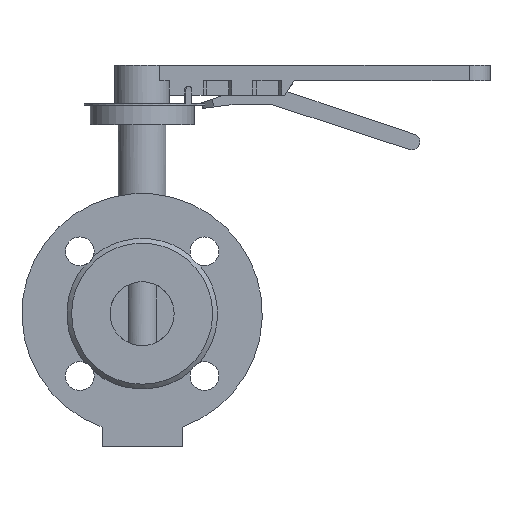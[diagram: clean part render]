
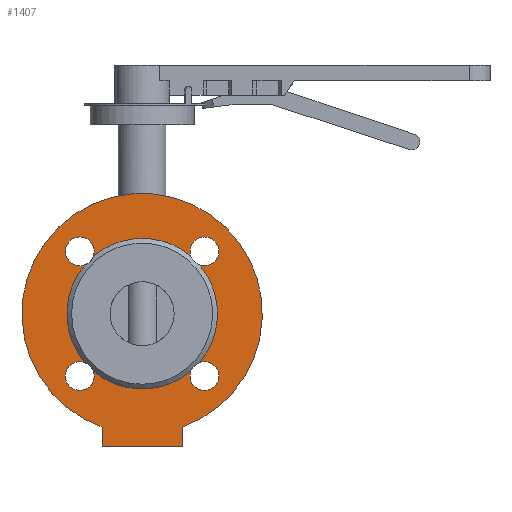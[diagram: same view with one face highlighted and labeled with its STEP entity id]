
A CAD part, front view. The second image highlights one B-rep face of the part: STEP entity #1407.
In plain terms, the highlighted planar face has unit normal (0, -1, 0).
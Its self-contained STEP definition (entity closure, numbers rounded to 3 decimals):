
#1407=ADVANCED_FACE('',(#2716,#2718),#2720,.T.);
#2716=FACE_BOUND('',#2717,.T.);
#2717=EDGE_LOOP('',(#3685,#3686,#3687,#3688));
#2718=FACE_BOUND('',#2719,.T.);
#2719=EDGE_LOOP('',(#3689,#3690,#3691,#3692,#3693,#3694,#3695,#3696,#3697,#3698,
#3699,#3700,#3701));
#2720=PLANE('',#2721);
#2721=AXIS2_PLACEMENT_3D('',#2722,#2723,#2724);
#2722=CARTESIAN_POINT('',(0.,-51.,0.));
#2723=DIRECTION('',(0.,-1.,0.));
#2724=DIRECTION('',(0.,0.,1.));
#3685=ORIENTED_EDGE('',*,*,#4161,.T.);
#3686=ORIENTED_EDGE('',*,*,#4159,.F.);
#3687=ORIENTED_EDGE('',*,*,#4157,.F.);
#3688=ORIENTED_EDGE('',*,*,#4156,.F.);
#3689=ORIENTED_EDGE('',*,*,#4166,.T.);
#3690=ORIENTED_EDGE('',*,*,#4168,.T.);
#3691=ORIENTED_EDGE('',*,*,#4223,.T.);
#3692=ORIENTED_EDGE('',*,*,#4171,.T.);
#3693=ORIENTED_EDGE('',*,*,#4170,.T.);
#3694=ORIENTED_EDGE('',*,*,#4224,.T.);
#3695=ORIENTED_EDGE('',*,*,#4174,.T.);
#3696=ORIENTED_EDGE('',*,*,#4173,.T.);
#3697=ORIENTED_EDGE('',*,*,#4225,.T.);
#3698=ORIENTED_EDGE('',*,*,#4175,.T.);
#3699=ORIENTED_EDGE('',*,*,#4177,.T.);
#3700=ORIENTED_EDGE('',*,*,#4226,.T.);
#3701=ORIENTED_EDGE('',*,*,#4227,.T.);
#4156=EDGE_CURVE('',#4879,#4877,#4881,.T.);
#4157=EDGE_CURVE('',#4877,#4882,#4883,.T.);
#4159=EDGE_CURVE('',#4882,#4885,#4886,.T.);
#4161=EDGE_CURVE('',#4879,#4885,#4888,.T.);
#4166=EDGE_CURVE('',#4893,#4894,#4895,.F.);
#4168=EDGE_CURVE('',#4894,#4896,#4898,.F.);
#4170=EDGE_CURVE('',#4902,#4899,#4903,.F.);
#4171=EDGE_CURVE('',#4900,#4902,#4904,.F.);
#4173=EDGE_CURVE('',#4908,#4905,#4909,.F.);
#4174=EDGE_CURVE('',#4906,#4908,#4910,.F.);
#4175=EDGE_CURVE('',#4911,#4912,#4913,.F.);
#4177=EDGE_CURVE('',#4912,#4914,#4916,.F.);
#4223=EDGE_CURVE('',#4896,#4900,#4989,.T.);
#4224=EDGE_CURVE('',#4899,#4906,#4990,.T.);
#4225=EDGE_CURVE('',#4905,#4911,#4991,.T.);
#4226=EDGE_CURVE('',#4914,#4992,#4993,.T.);
#4227=EDGE_CURVE('',#4992,#4893,#4994,.T.);
#4877=VERTEX_POINT('',#6911);
#4879=VERTEX_POINT('',#6915);
#4881=CIRCLE('',#6919,75.);
#4882=VERTEX_POINT('',#6923);
#4883=LINE('',#6924,#6925);
#4885=VERTEX_POINT('',#6930);
#4886=LINE('',#6931,#6932);
#4888=LINE('',#6937,#6938);
#4893=VERTEX_POINT('',#6952);
#4894=VERTEX_POINT('',#6953);
#4895=CIRCLE('',#6954,9.);
#4896=VERTEX_POINT('',#6958);
#4898=CIRCLE('',#7026,9.);
#4899=VERTEX_POINT('',#7030);
#4900=VERTEX_POINT('',#7031);
#4902=VERTEX_POINT('',#7099);
#4903=CIRCLE('',#7100,9.);
#4904=CIRCLE('',#7104,9.);
#4905=VERTEX_POINT('',#7108);
#4906=VERTEX_POINT('',#7109);
#4908=VERTEX_POINT('',#7177);
#4909=CIRCLE('',#7178,9.);
#4910=CIRCLE('',#7182,9.);
#4911=VERTEX_POINT('',#7186);
#4912=VERTEX_POINT('',#7187);
#4913=CIRCLE('',#7188,9.);
#4914=VERTEX_POINT('',#7192);
#4916=CIRCLE('',#7260,9.);
#4989=CIRCLE('',#7901,47.);
#4990=CIRCLE('',#7905,47.);
#4991=CIRCLE('',#7909,47.);
#4992=VERTEX_POINT('',#7913);
#4993=CIRCLE('',#7914,47.);
#4994=CIRCLE('',#7918,47.);
#6911=CARTESIAN_POINT('',(25.,-51.,-70.711));
#6915=CARTESIAN_POINT('',(-25.,-51.,-70.711));
#6919=AXIS2_PLACEMENT_3D('',#6920,#6921,#6922);
#6920=CARTESIAN_POINT('',(0.,-51.,0.));
#6921=DIRECTION('',(0.,1.,0.));
#6922=DIRECTION('',(-0.333,0.,-0.943));
#6923=CARTESIAN_POINT('',(25.,-51.,-83.));
#6924=CARTESIAN_POINT('',(25.,-51.,-70.711));
#6925=VECTOR('',#6926,1.);
#6926=DIRECTION('',(0.,0.,-1.));
#6930=CARTESIAN_POINT('',(-25.,-51.,-83.));
#6931=CARTESIAN_POINT('',(25.,-51.,-83.));
#6932=VECTOR('',#6933,1.);
#6933=DIRECTION('',(-1.,0.,0.));
#6937=CARTESIAN_POINT('',(-25.,-51.,-70.711));
#6938=VECTOR('',#6939,1.);
#6939=DIRECTION('',(0.,0.,-1.));
#6952=CARTESIAN_POINT('',(30.432,-51.,35.818));
#6953=CARTESIAN_POINT('',(38.891,-51.,29.891));
#6954=AXIS2_PLACEMENT_3D('',#6955,#6956,#6957);
#6955=CARTESIAN_POINT('',(38.891,-51.,38.891));
#6956=DIRECTION('',(0.,-1.,0.));
#6957=DIRECTION('',(0.,0.,-1.));
#6958=CARTESIAN_POINT('',(35.818,-51.,30.432));
#7026=AXIS2_PLACEMENT_3D('',#7027,#7028,#7029);
#7027=CARTESIAN_POINT('',(38.891,-51.,38.891));
#7028=DIRECTION('',(0.,-1.,0.));
#7029=DIRECTION('',(-0.341,0.,-0.94));
#7030=CARTESIAN_POINT('',(30.432,-51.,-35.818));
#7031=CARTESIAN_POINT('',(35.818,-51.,-30.432));
#7099=CARTESIAN_POINT('',(29.891,-51.,-38.891));
#7100=AXIS2_PLACEMENT_3D('',#7101,#7102,#7103);
#7101=CARTESIAN_POINT('',(38.891,-51.,-38.891));
#7102=DIRECTION('',(0.,-1.,0.));
#7103=DIRECTION('',(-0.94,0.,0.341));
#7104=AXIS2_PLACEMENT_3D('',#7105,#7106,#7107);
#7105=CARTESIAN_POINT('',(38.891,-51.,-38.891));
#7106=DIRECTION('',(0.,-1.,0.));
#7107=DIRECTION('',(-1.,0.,0.));
#7108=CARTESIAN_POINT('',(-35.818,-51.,-30.432));
#7109=CARTESIAN_POINT('',(-30.432,-51.,-35.818));
#7177=CARTESIAN_POINT('',(-38.891,-51.,-29.891));
#7178=AXIS2_PLACEMENT_3D('',#7179,#7180,#7181);
#7179=CARTESIAN_POINT('',(-38.891,-51.,-38.891));
#7180=DIRECTION('',(0.,-1.,0.));
#7181=DIRECTION('',(0.341,0.,0.94));
#7182=AXIS2_PLACEMENT_3D('',#7183,#7184,#7185);
#7183=CARTESIAN_POINT('',(-38.891,-51.,-38.891));
#7184=DIRECTION('',(0.,-1.,0.));
#7185=DIRECTION('',(0.,0.,1.));
#7186=CARTESIAN_POINT('',(-35.818,-51.,30.432));
#7187=CARTESIAN_POINT('',(-29.891,-51.,38.891));
#7188=AXIS2_PLACEMENT_3D('',#7189,#7190,#7191);
#7189=CARTESIAN_POINT('',(-38.891,-51.,38.891));
#7190=DIRECTION('',(0.,-1.,0.));
#7191=DIRECTION('',(1.,0.,0.));
#7192=CARTESIAN_POINT('',(-30.432,-51.,35.818));
#7260=AXIS2_PLACEMENT_3D('',#7261,#7262,#7263);
#7261=CARTESIAN_POINT('',(-38.891,-51.,38.891));
#7262=DIRECTION('',(0.,-1.,0.));
#7263=DIRECTION('',(0.94,0.,-0.341));
#7901=AXIS2_PLACEMENT_3D('',#7902,#7903,#7904);
#7902=CARTESIAN_POINT('',(0.,-51.,0.));
#7903=DIRECTION('',(0.,1.,0.));
#7904=DIRECTION('',(0.762,0.,0.647));
#7905=AXIS2_PLACEMENT_3D('',#7906,#7907,#7908);
#7906=CARTESIAN_POINT('',(0.,-51.,0.));
#7907=DIRECTION('',(0.,1.,0.));
#7908=DIRECTION('',(0.647,0.,-0.762));
#7909=AXIS2_PLACEMENT_3D('',#7910,#7911,#7912);
#7910=CARTESIAN_POINT('',(0.,-51.,0.));
#7911=DIRECTION('',(0.,1.,0.));
#7912=DIRECTION('',(-0.762,0.,-0.647));
#7913=CARTESIAN_POINT('',(0.,-51.,47.));
#7914=AXIS2_PLACEMENT_3D('',#7915,#7916,#7917);
#7915=CARTESIAN_POINT('',(0.,-51.,0.));
#7916=DIRECTION('',(0.,1.,0.));
#7917=DIRECTION('',(-0.647,0.,0.762));
#7918=AXIS2_PLACEMENT_3D('',#7919,#7920,#7921);
#7919=CARTESIAN_POINT('',(0.,-51.,0.));
#7920=DIRECTION('',(0.,1.,0.));
#7921=DIRECTION('',(0.,0.,1.));
